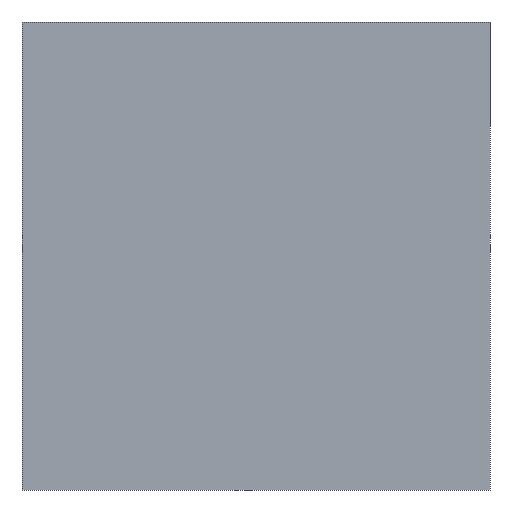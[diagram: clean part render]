
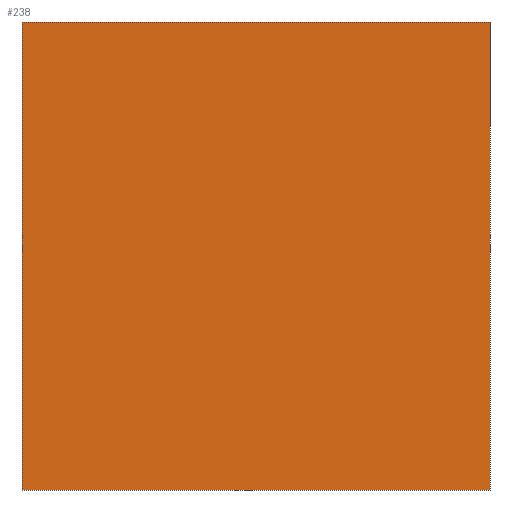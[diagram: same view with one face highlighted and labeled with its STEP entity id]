
A CAD part, front view. The second image highlights one B-rep face of the part: STEP entity #238.
In plain terms, the highlighted planar face has unit normal (0, -1, 0).
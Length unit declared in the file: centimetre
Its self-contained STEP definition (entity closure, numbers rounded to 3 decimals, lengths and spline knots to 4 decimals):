
#25 = AXIS2_PLACEMENT_3D ( 'NONE', #333, #343, #176 ) ;
#37 = ORIENTED_EDGE ( 'NONE', *, *, #534, .F. ) ;
#44 = LINE ( 'NONE', #47, #401 ) ;
#47 = CARTESIAN_POINT ( 'NONE',  ( 0., 0., 0. ) ) ;
#60 = VERTEX_POINT ( 'NONE', #332 ) ;
#61 = LINE ( 'NONE', #394, #484 ) ;
#74 = EDGE_LOOP ( 'NONE', ( #177, #529, #37, #259 ) ) ;
#77 = VERTEX_POINT ( 'NONE', #450 ) ;
#83 = VERTEX_POINT ( 'NONE', #336 ) ;
#99 = CARTESIAN_POINT ( 'NONE',  ( 0., 0., 0. ) ) ;
#101 = CARTESIAN_POINT ( 'NONE',  ( 0., 0., 1000. ) ) ;
#111 = EDGE_CURVE ( 'NONE', #426, #77, #44, .T. ) ;
#145 = FACE_OUTER_BOUND ( 'NONE', #74, .T. ) ;
#176 = DIRECTION ( 'NONE',  ( 0., 0., 1. ) ) ;
#177 = ORIENTED_EDGE ( 'NONE', *, *, #111, .T. ) ;
#191 = LINE ( 'NONE', #483, #199 ) ;
#192 = DIRECTION ( 'NONE',  ( 0., 0., -1. ) ) ;
#194 = DIRECTION ( 'NONE',  ( 0., 0., -1. ) ) ;
#199 = VECTOR ( 'NONE', #357, 100. ) ;
#238 = ADVANCED_FACE ( 'NONE', ( #145 ), #310, .F. ) ;
#256 = VECTOR ( 'NONE', #194, 100. ) ;
#259 = ORIENTED_EDGE ( 'NONE', *, *, #526, .T. ) ;
#310 = PLANE ( 'NONE',  #25 ) ;
#332 = CARTESIAN_POINT ( 'NONE',  ( 1000., 0., 1000. ) ) ;
#333 = CARTESIAN_POINT ( 'NONE',  ( 0., 0., 1000. ) ) ;
#336 = CARTESIAN_POINT ( 'NONE',  ( 0., 0., 1000. ) ) ;
#343 = DIRECTION ( 'NONE',  ( 0., 1., 0. ) ) ;
#350 = DIRECTION ( 'NONE',  ( 1., 0., 0. ) ) ;
#357 = DIRECTION ( 'NONE',  ( 1., 0., 0. ) ) ;
#394 = CARTESIAN_POINT ( 'NONE',  ( 1000., 0., 1000. ) ) ;
#401 = VECTOR ( 'NONE', #350, 100. ) ;
#426 = VERTEX_POINT ( 'NONE', #99 ) ;
#450 = CARTESIAN_POINT ( 'NONE',  ( 1000., 0., 0. ) ) ;
#482 = EDGE_CURVE ( 'NONE', #60, #77, #61, .T. ) ;
#483 = CARTESIAN_POINT ( 'NONE',  ( 0., 0., 1000. ) ) ;
#484 = VECTOR ( 'NONE', #192, 100. ) ;
#521 = LINE ( 'NONE', #101, #256 ) ;
#526 = EDGE_CURVE ( 'NONE', #83, #426, #521, .T. ) ;
#529 = ORIENTED_EDGE ( 'NONE', *, *, #482, .F. ) ;
#534 = EDGE_CURVE ( 'NONE', #83, #60, #191, .T. ) ;
